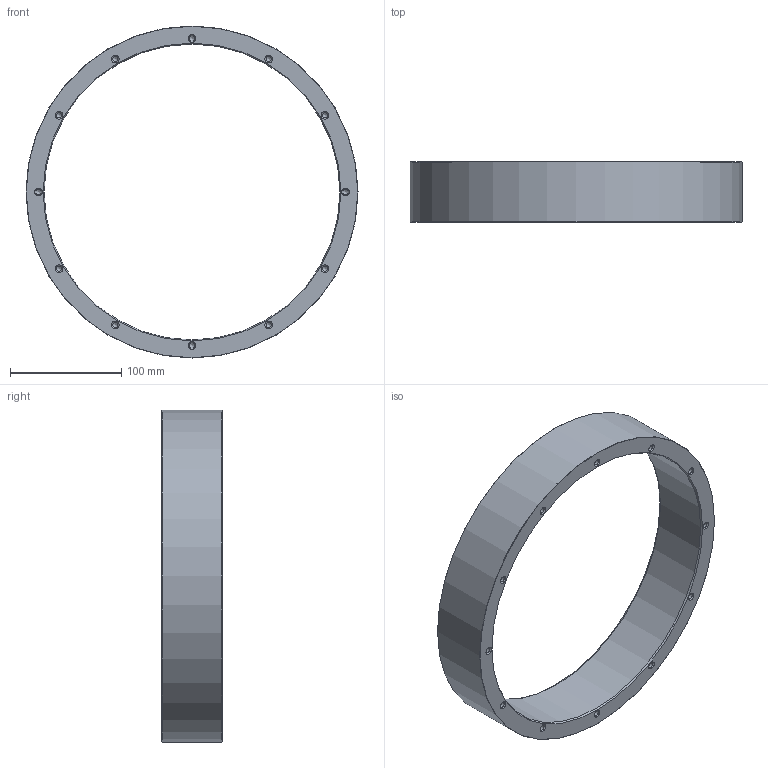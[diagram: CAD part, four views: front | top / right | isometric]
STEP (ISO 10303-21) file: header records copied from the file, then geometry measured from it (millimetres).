
FILE_DESCRIPTION(('STEP AP214'), '1');
FILE_NAME('ﾌﾀﾍﾏ.684252.020-21 ﾐⅳⅱ 380x54', '', ('UNSPECIFIED'), ('UNSPECIFIED'), 'C3D Converter', 'C3D Toolkit', '');
FILE_SCHEMA(('AUTOMOTIVE_DESIGN { 1 0 10303 214 3 1 1}'));
Length unit declared in the file: millimetre
Products named in the file (1): МАНП.684252.020-21
Bounding box: 298.5 x 54 x 298.5 mm (x, y, z)
Volume: 770627.5 mm3; surface area: 128077.5 mm2
Topology: 1 solids, 1 shells, 80 faces, 182 edges, 104 vertices
Faces by surface type: cone 50, cylinder 26, plane 2, torus 2
Full cylindrical faces by diameter (mm): 4.917 x24, 266 x1, 298.5 x1
Entity records: 2288 total; most frequent: DIRECTION 322, CARTESIAN_POINT 241, AXIS2_PLACEMENT_3D 161, EDGE_LOOP 160, ORIENTED_EDGE 160, FACE_OUTER_BOUND 132, COLOUR_RGB 81, FILL_AREA_STYLE_COLOUR 81
